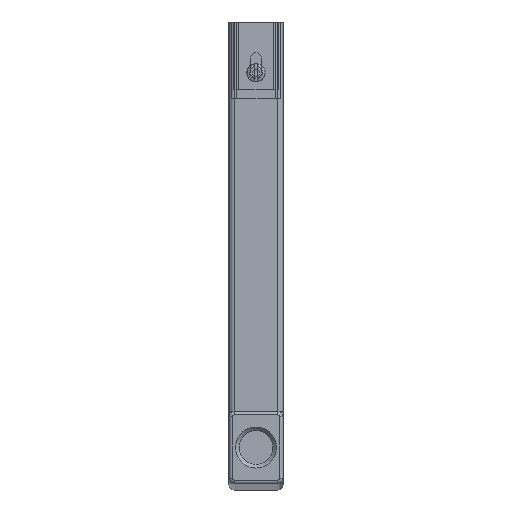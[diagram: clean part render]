
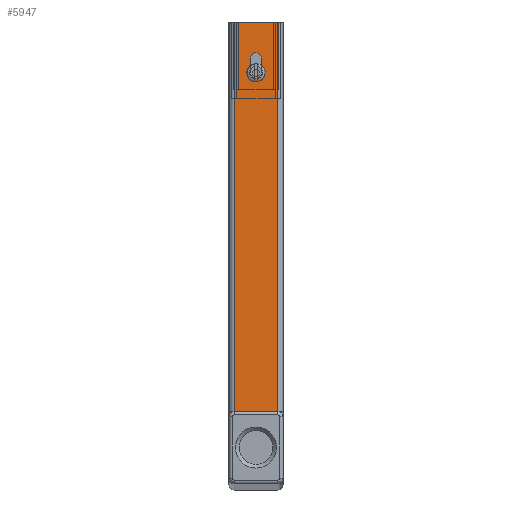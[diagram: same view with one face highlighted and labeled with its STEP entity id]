
A CAD part, top view. The second image highlights one B-rep face of the part: STEP entity #5947.
In plain terms, the highlighted planar face has unit normal (0, 0, 1).
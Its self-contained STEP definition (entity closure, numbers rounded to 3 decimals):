
#251=CARTESIAN_POINT('',(-3.,47.,1780.0));
#252=VERTEX_POINT('',#251);
#259=CARTESIAN_POINT('',(3.,47.,1780.0));
#260=VERTEX_POINT('',#259);
#261=CARTESIAN_POINT('',(0.0,47.,1780.0));
#262=DIRECTION('',(0.0,0.0,-1.0));
#263=DIRECTION('',(-1.0,0.0,0.0));
#264=AXIS2_PLACEMENT_3D('',#261,#262,#263);
#265=CIRCLE('',#264,3.);
#266=EDGE_CURVE('',#260,#252,#265,.T.);
#291=CARTESIAN_POINT('',(3.,55.0,1780.0));
#292=VERTEX_POINT('',#291);
#293=CARTESIAN_POINT('',(3.,55.0,1780.0));
#294=DIRECTION('',(0.0,-1.0,0.0));
#295=VECTOR('',#294,8.0);
#296=LINE('',#293,#295);
#297=EDGE_CURVE('',#292,#260,#296,.T.);
#323=CARTESIAN_POINT('',(-3.,55.0,1780.0));
#324=VERTEX_POINT('',#323);
#325=CARTESIAN_POINT('',(0.0,55.0,1780.0));
#326=DIRECTION('',(0.0,0.0,-1.0));
#327=DIRECTION('',(1.0,0.0,0.0));
#328=AXIS2_PLACEMENT_3D('',#325,#326,#327);
#329=CIRCLE('',#328,3.);
#330=EDGE_CURVE('',#324,#292,#329,.T.);
#353=CARTESIAN_POINT('',(-3.,47.,1780.0));
#354=DIRECTION('',(0.0,1.0,0.0));
#355=VECTOR('',#354,8.);
#356=LINE('',#353,#355);
#357=EDGE_CURVE('',#252,#324,#356,.T.);
#2114=CARTESIAN_POINT('',(-12.,-140.0,1780.0));
#2115=VERTEX_POINT('',#2114);
#2674=CARTESIAN_POINT('',(-12.,75.0,1780.0));
#2675=VERTEX_POINT('',#2674);
#2683=CARTESIAN_POINT('',(12.,75.0,1780.0));
#2684=VERTEX_POINT('',#2683);
#2685=CARTESIAN_POINT('',(-12.,75.0,1780.0));
#2686=DIRECTION('',(1.0,0.0,0.0));
#2687=VECTOR('',#2686,24.);
#2688=LINE('',#2685,#2687);
#2689=EDGE_CURVE('',#2675,#2684,#2688,.T.);
#5474=CARTESIAN_POINT('',(12.,-140.0,1780.0));
#5475=VERTEX_POINT('',#5474);
#5909=CARTESIAN_POINT('',(-12.,75.0,1780.0));
#5910=DIRECTION('',(0.0,-1.0,0.0));
#5911=VECTOR('',#5910,215.0);
#5912=LINE('',#5909,#5911);
#5913=EDGE_CURVE('',#2675,#2115,#5912,.T.);
#5920=CARTESIAN_POINT('',(-12.,75.0,1780.0));
#5921=DIRECTION('',(0.0,0.0,1.0));
#5922=DIRECTION('',(1.0,0.0,0.0));
#5923=AXIS2_PLACEMENT_3D('',#5920,#5921,#5922);
#5924=PLANE('',#5923);
#5925=CARTESIAN_POINT('',(12.,-140.0,1780.0));
#5926=DIRECTION('',(-1.0,0.0,0.0));
#5927=VECTOR('',#5926,24.);
#5928=LINE('',#5925,#5927);
#5929=EDGE_CURVE('',#5475,#2115,#5928,.T.);
#5930=ORIENTED_EDGE('',*,*,#5929,.F.);
#5931=CARTESIAN_POINT('',(12.,75.0,1780.0));
#5932=DIRECTION('',(0.0,-1.0,0.0));
#5933=VECTOR('',#5932,215.0);
#5934=LINE('',#5931,#5933);
#5935=EDGE_CURVE('',#2684,#5475,#5934,.T.);
#5936=ORIENTED_EDGE('',*,*,#5935,.F.);
#5937=ORIENTED_EDGE('',*,*,#2689,.F.);
#5938=ORIENTED_EDGE('',*,*,#5913,.T.);
#5939=EDGE_LOOP('',(#5930,#5936,#5937,#5938));
#5940=FACE_OUTER_BOUND('',#5939,.T.);
#5941=ORIENTED_EDGE('',*,*,#330,.T.);
#5942=ORIENTED_EDGE('',*,*,#297,.T.);
#5943=ORIENTED_EDGE('',*,*,#266,.T.);
#5944=ORIENTED_EDGE('',*,*,#357,.T.);
#5945=EDGE_LOOP('',(#5941,#5942,#5943,#5944));
#5946=FACE_BOUND('',#5945,.T.);
#5947=ADVANCED_FACE('',(#5940,#5946),#5924,.T.);
